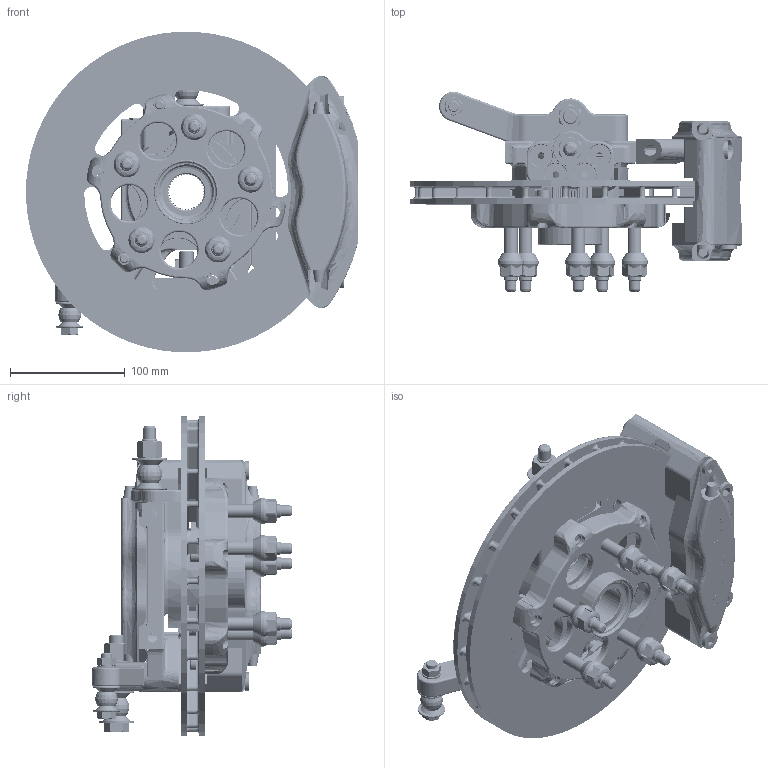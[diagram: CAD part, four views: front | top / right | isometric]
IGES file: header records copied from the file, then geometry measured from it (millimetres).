
Start section: SolidWorks IGES file using analytic representation for surfaces
Global section: file name: C:\projects\PM Parts\GT Upright assembly B.IGS; native system: SolidWorks 2010; preprocessor: SolidWorks 2010; author: dp; date: 100428.143930; units: inch
Bounding box: 289.19 x 174.46 x 279.23 mm (x, y, z)
Surface area: 466475.8 mm2 (no closed solid volume)
Topology: 0 solids, 0 shells, 1825 faces, 27815 edges, 27779 vertices
Faces by surface type: bspline 976, revolution 849
